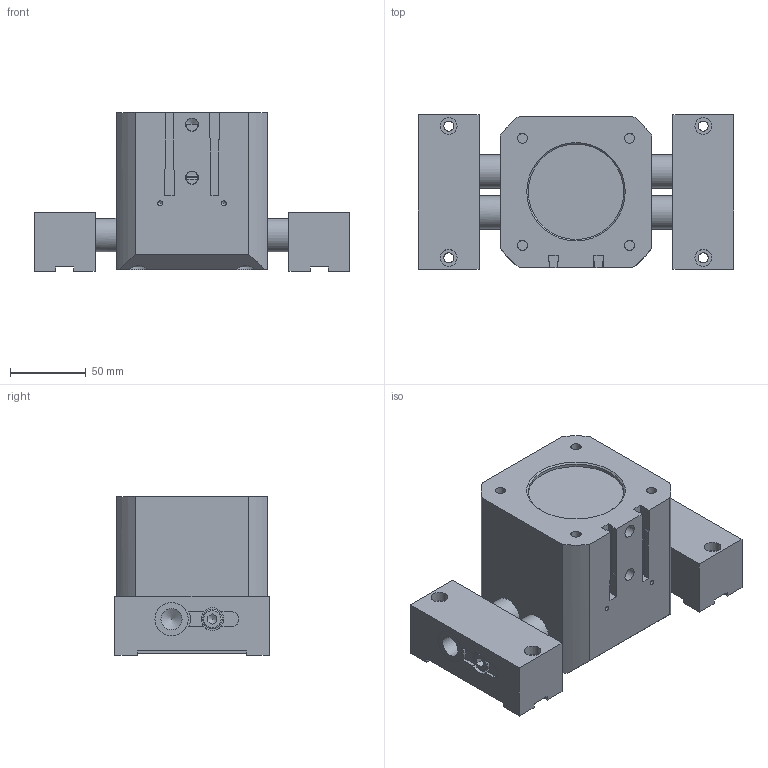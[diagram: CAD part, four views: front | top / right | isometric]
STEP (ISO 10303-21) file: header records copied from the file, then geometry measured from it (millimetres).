
FILE_DESCRIPTION((''),'2;1');
FILE_NAME('T:\CAD\Standard\Daten\3D-Datenbank\GP\4 - 3D-CAD-Daten GP 050-125\GP125\step-Daten\G-GP125-l2-GS+UB open.stp','2013-11-07T13:43:56',('Dirk'),(''),'Autodesk Inventor 2011','Autodesk Inventor 2011','');
FILE_SCHEMA(('AUTOMOTIVE_DESIGN { 1 0 10303 214 1 1 1 1 }'));
Length unit declared in the file: millimetre
Products named in the file (1): Bauteil78
Bounding box: 208.11 x 102 x 105 mm (x, y, z)
Volume: 1136978.2 mm3; surface area: 194057.9 mm2
Topology: 1 solids, 19 shells, 410 faces, 1032 edges, 668 vertices
Faces by surface type: plane 233, cylinder 116, cone 36, torus 24, bspline 1
Full cylindrical faces by diameter (mm): 3.242 x2, 6.647 x10, 8 x6, 8.566 x2, 9 x6, 10.106 x1, 11 x4, 12 x1, 13 x7, 14 x2, 15 x8, 22 x6, 24 x1, 25 x7, 28 x1, 31.4 x2, 37 x1, 60 x2, 63 x1, 70.2 x1, 77.1 x2, 80 x5
Entity records: 12646 total; most frequent: CARTESIAN_POINT 3190, DIRECTION 1888, ORIENTED_EDGE 1646, EDGE_CURVE 823, AXIS2_PLACEMENT_3D 731, EDGE_LOOP 621, VERTEX_POINT 592, VECTOR 426
